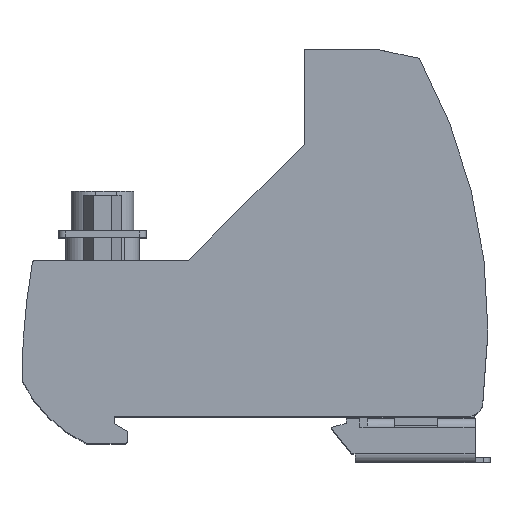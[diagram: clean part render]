
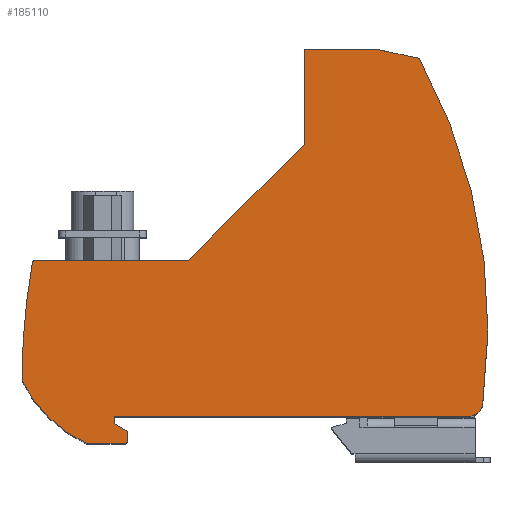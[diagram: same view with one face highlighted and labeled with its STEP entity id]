
A CAD part, top view. The second image highlights one B-rep face of the part: STEP entity #185110.
In plain terms, the highlighted planar face has unit normal (0, 0, 1).
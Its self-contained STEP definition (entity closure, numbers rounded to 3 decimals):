
#59200=CARTESIAN_POINT('',(-49.74,23.35,
6.588));
#59210=VERTEX_POINT('',#59200);
#59240=CARTESIAN_POINT('',(-49.74,23.35,
6.588));
#59250=DIRECTION('',(1.,0.,0.));
#59260=VECTOR('',#59250,1000.);
#59270=LINE('',#59240,#59260);
#59280=CARTESIAN_POINT('',(-72.428,23.35,
6.588));
#59290=VERTEX_POINT('',#59280);
#59300=EDGE_CURVE('',#59290,#59210,#59270,.T.);
#128150=CARTESIAN_POINT('',(-60.76,0.3,
6.588));
#128160=DIRECTION('',(-1.,0.,0.));
#128170=VECTOR('',#128160,1000.);
#128180=LINE('',#128150,#128170);
#128190=CARTESIAN_POINT('',(-8.49,0.3,
6.588));
#128200=VERTEX_POINT('',#128190);
#128210=CARTESIAN_POINT('',(-60.76,0.3,
6.588));
#128220=VERTEX_POINT('',#128210);
#128230=EDGE_CURVE('',#128200,#128220,#128180,.T.);
#175020=CARTESIAN_POINT('',(-15.74,53.1,
6.588));
#175030=VERTEX_POINT('',#175020);
#175060=CARTESIAN_POINT('',(-15.74,53.1,
6.588));
#175070=DIRECTION('',(0.978,-0.208,0.));
#175080=VECTOR('',#175070,1000.);
#175090=LINE('',#175060,#175080);
#175100=CARTESIAN_POINT('',(-22.185,54.47,
6.588));
#175110=VERTEX_POINT('',#175100);
#175120=EDGE_CURVE('',#175110,#175030,#175090,.T.);
#182250=CARTESIAN_POINT('',(-22.185,54.47,
6.588));
#182260=DIRECTION('',(1.,0.,0.));
#182270=VECTOR('',#182260,1000.);
#182280=LINE('',#182250,#182270);
#182290=CARTESIAN_POINT('',(-32.74,54.47,
6.588));
#182300=VERTEX_POINT('',#182290);
#182310=EDGE_CURVE('',#182300,#175110,#182280,.T.);
#183930=CARTESIAN_POINT('',(-32.74,54.47,
6.588));
#183940=DIRECTION('',(0.,1.,0.));
#183950=VECTOR('',#183940,1000.);
#183960=LINE('',#183930,#183950);
#183970=CARTESIAN_POINT('',(-32.74,40.35,
6.588));
#183980=VERTEX_POINT('',#183970);
#183990=EDGE_CURVE('',#183980,#182300,#183960,.T.);
#184110=CARTESIAN_POINT('',(-11.401,13.433,
6.588));
#184120=DIRECTION('',(0.,0.,-1.));
#184130=DIRECTION('',(-1.,0.,0.));
#184140=AXIS2_PLACEMENT_3D('',#184110,#184120,#184130);
#184150=PLANE('',#184140);
#184160=CARTESIAN_POINT('',(-87.994,13.521,
6.588));
#184170=DIRECTION('',(0.,0.,-1.));
#184180=DIRECTION('',(-1.,0.,0.));
#184190=AXIS2_PLACEMENT_3D('',#184160,#184170,#184180);
#184200=CIRCLE('',#184190,82.384);
#184210=CARTESIAN_POINT('',(-6.36,2.43,
6.588));
#184220=VERTEX_POINT('',#184210);
#184230=EDGE_CURVE('',#175030,#184220,#184200,.T.);
#184240=ORIENTED_EDGE('',*,*,#184230,.F.);
#184250=CARTESIAN_POINT('',(-8.49,2.43,
6.588));
#184260=DIRECTION('',(0.,0.,-1.));
#184270=DIRECTION('',(-1.,0.,0.));
#184280=AXIS2_PLACEMENT_3D('',#184250,#184260,#184270);
#184290=CIRCLE('',#184280,2.13);
#184300=EDGE_CURVE('',#184220,#128200,#184290,.T.);
#184310=ORIENTED_EDGE('',*,*,#184300,.F.);
#184320=ORIENTED_EDGE('',*,*,#128230,.F.);
#184330=CARTESIAN_POINT('',(-60.76,-0.8,
6.588));
#184340=DIRECTION('',(0.,-1.,0.));
#184350=VECTOR('',#184340,1000.);
#184360=LINE('',#184330,#184350);
#184370=CARTESIAN_POINT('',(-60.76,-0.8,
6.588));
#184380=VERTEX_POINT('',#184370);
#184390=EDGE_CURVE('',#128220,#184380,#184360,.T.);
#184400=ORIENTED_EDGE('',*,*,#184390,.F.);
#184410=CARTESIAN_POINT('',(-58.76,-1.955,
6.588));
#184420=DIRECTION('',(0.866,-0.5,0.));
#184430=VECTOR('',#184420,1000.);
#184440=LINE('',#184410,#184430);
#184450=CARTESIAN_POINT('',(-58.76,-1.955,
6.588));
#184460=VERTEX_POINT('',#184450);
#184470=EDGE_CURVE('',#184380,#184460,#184440,.T.);
#184480=ORIENTED_EDGE('',*,*,#184470,.F.);
#184490=CARTESIAN_POINT('',(-58.76,-3.2,
6.588));
#184500=DIRECTION('',(0.,-1.,0.));
#184510=VECTOR('',#184500,1000.);
#184520=LINE('',#184490,#184510);
#184530=CARTESIAN_POINT('',(-58.76,-3.2,
6.588));
#184540=VERTEX_POINT('',#184530);
#184550=EDGE_CURVE('',#184460,#184540,#184520,.T.);
#184560=ORIENTED_EDGE('',*,*,#184550,.F.);
#184570=CARTESIAN_POINT('',(-59.26,-3.2,
6.588));
#184580=DIRECTION('',(0.,0.,-1.));
#184590=DIRECTION('',(-1.,0.,0.));
#184600=AXIS2_PLACEMENT_3D('',#184570,#184580,#184590);
#184610=CIRCLE('',#184600,0.5);
#184620=CARTESIAN_POINT('',(-59.26,-3.7,
6.588));
#184630=VERTEX_POINT('',#184620);
#184640=EDGE_CURVE('',#184540,#184630,#184610,.T.);
#184650=ORIENTED_EDGE('',*,*,#184640,.F.);
#184660=CARTESIAN_POINT('',(-64.86,-3.7,
6.588));
#184670=DIRECTION('',(-1.,0.,0.));
#184680=VECTOR('',#184670,1000.);
#184690=LINE('',#184660,#184680);
#184700=CARTESIAN_POINT('',(-64.86,-3.7,
6.588));
#184710=VERTEX_POINT('',#184700);
#184720=EDGE_CURVE('',#184630,#184710,#184690,.T.);
#184730=ORIENTED_EDGE('',*,*,#184720,.F.);
#184740=CARTESIAN_POINT('',(-56.447,14.444,
6.588));
#184750=DIRECTION('',(0.,0.,-1.));
#184760=DIRECTION('',(-1.,0.,0.));
#184770=AXIS2_PLACEMENT_3D('',#184740,#184750,#184760);
#184780=CIRCLE('',#184770,20.);
#184790=CARTESIAN_POINT('',(-74.36,5.55,
6.588));
#184800=VERTEX_POINT('',#184790);
#184810=EDGE_CURVE('',#184710,#184800,#184780,.T.);
#184820=ORIENTED_EDGE('',*,*,#184810,.F.);
#184830=CARTESIAN_POINT('',(25.64,5.55,
6.588));
#184840=DIRECTION('',(0.,0.,-1.));
#184850=DIRECTION('',(-1.,0.,0.));
#184860=AXIS2_PLACEMENT_3D('',#184830,#184840,#184850);
#184870=CIRCLE('',#184860,100.);
#184880=CARTESIAN_POINT('',(-72.822,23.02,
6.588));
#184890=VERTEX_POINT('',#184880);
#184900=EDGE_CURVE('',#184800,#184890,#184870,.T.);
#184910=ORIENTED_EDGE('',*,*,#184900,.F.);
#184920=CARTESIAN_POINT('',(-72.428,22.95,
6.588));
#184930=DIRECTION('',(0.,0.,-1.));
#184940=DIRECTION('',(-1.,0.,0.));
#184950=AXIS2_PLACEMENT_3D('',#184920,#184930,#184940);
#184960=CIRCLE('',#184950,0.4);
#184970=EDGE_CURVE('',#184890,#59290,#184960,.T.);
#184980=ORIENTED_EDGE('',*,*,#184970,.F.);
#184990=ORIENTED_EDGE('',*,*,#59300,.F.);
#185000=CARTESIAN_POINT('',(-32.74,40.35,
6.588));
#185010=DIRECTION('',(0.707,0.707,0.));
#185020=VECTOR('',#185010,1000.);
#185030=LINE('',#185000,#185020);
#185040=EDGE_CURVE('',#59210,#183980,#185030,.T.);
#185050=ORIENTED_EDGE('',*,*,#185040,.F.);
#185060=ORIENTED_EDGE('',*,*,#183990,.F.);
#185070=ORIENTED_EDGE('',*,*,#182310,.F.);
#185080=ORIENTED_EDGE('',*,*,#175120,.F.);
#185090=EDGE_LOOP('',(#185080,#185070,#185060,#185050,#184990,#184980,
#184910,#184820,#184730,#184650,#184560,#184480,#184400,#184320,#184310,
#184240));
#185100=FACE_OUTER_BOUND('',#185090,.T.);
#185110=ADVANCED_FACE('',(#185100),#184150,.F.);
